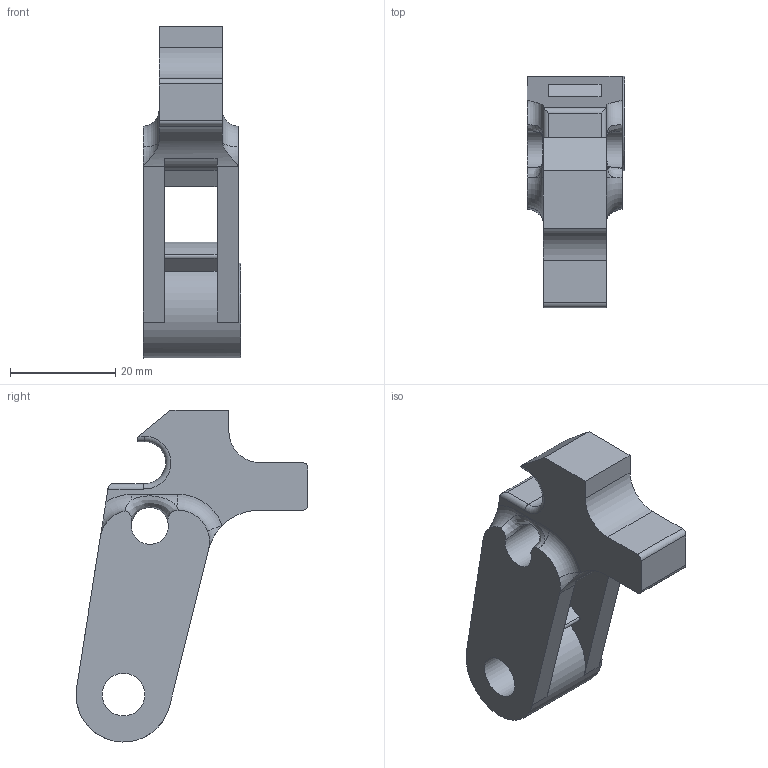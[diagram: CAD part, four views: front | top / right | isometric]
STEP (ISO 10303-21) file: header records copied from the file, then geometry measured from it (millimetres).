
FILE_DESCRIPTION((''),'2;1');
FILE_NAME('C:\Users\JamesRPatrick\Documents\Autodesk\PM422\STEP2.0\PM422Hammer2.stp','2015-08-22T19:02:44',('JamesRPatrick'),(''),'Autodesk Inventor 2012','Autodesk Inventor 2012','');
FILE_SCHEMA(('AUTOMOTIVE_DESIGN { 1 0 10303 214 1 1 1 1 }'));
Length unit declared in the file: millimetre
Products named in the file (1): PM422Hammer2
Bounding box: 18.5 x 44 x 63 mm (x, y, z)
Volume: 15821.1 mm3; surface area: 6808.4 mm2
Topology: 1 solids, 1 shells, 52 faces, 149 edges, 96 vertices
Faces by surface type: plane 21, cylinder 21, torus 8, bspline 2
Full cylindrical faces by diameter (mm): 7 x1, 8.1 x1, 18 x1
Entity records: 2151 total; most frequent: CARTESIAN_POINT 764, ORIENTED_EDGE 290, DIRECTION 286, EDGE_CURVE 145, AXIS2_PLACEMENT_3D 110, VERTEX_POINT 95, VECTOR 66, LINE 66
